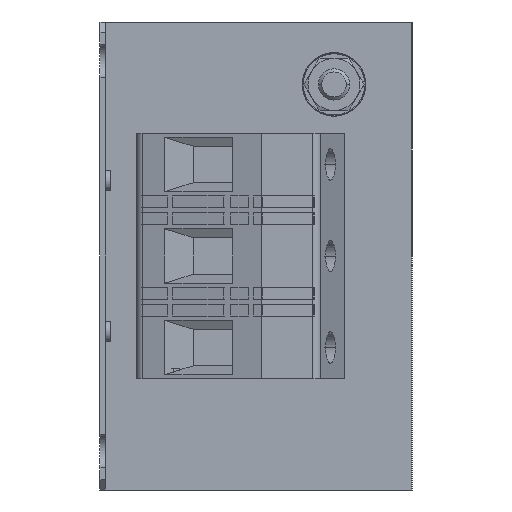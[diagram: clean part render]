
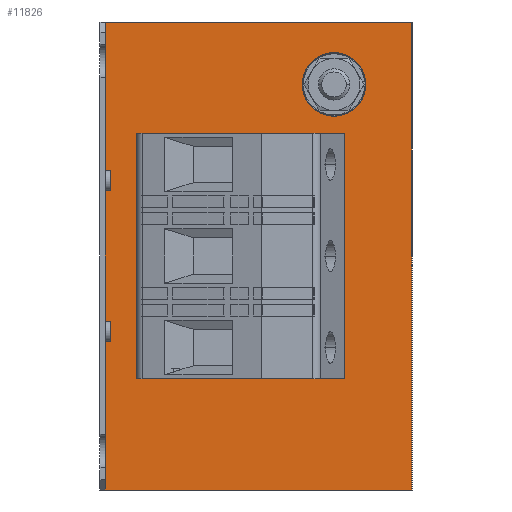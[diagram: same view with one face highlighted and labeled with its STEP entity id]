
A CAD part, left-side view. The second image highlights one B-rep face of the part: STEP entity #11826.
In plain terms, the highlighted planar face has unit normal (-1, 0, 0).
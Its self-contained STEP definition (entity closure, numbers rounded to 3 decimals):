
#641=DIRECTION('',(0.,0.,1.));
#642=VECTOR('',#641,47.3);
#643=CARTESIAN_POINT('',(-115.,52.,-23.65));
#644=LINE('',#643,#642);
#648=DIRECTION('',(0.,0.,-1.));
#649=VECTOR('',#648,90.);
#650=CARTESIAN_POINT('',(-115.,-1.,45.));
#651=LINE('',#650,#649);
#655=DIRECTION('',(0.,0.,1.));
#656=VECTOR('',#655,28.564);
#657=CARTESIAN_POINT('',(-115.,58.,-45.));
#658=LINE('',#657,#656);
#662=DIRECTION('',(0.,0.,1.));
#663=VECTOR('',#662,25.127);
#664=CARTESIAN_POINT('',(-115.,58.,-12.564));
#665=LINE('',#664,#663);
#669=DIRECTION('',(0.,0.,1.));
#670=VECTOR('',#669,28.564);
#671=CARTESIAN_POINT('',(-115.,58.,16.436));
#672=LINE('',#671,#670);
#676=DIRECTION('',(0.,-1.,0.));
#677=VECTOR('',#676,40.);
#678=CARTESIAN_POINT('',(-115.,52.,23.65));
#679=LINE('',#678,#677);
#683=DIRECTION('',(0.,-1.,0.));
#684=VECTOR('',#683,40.);
#685=CARTESIAN_POINT('',(-115.,52.,-23.65));
#686=LINE('',#685,#684);
#738=CARTESIAN_POINT('',(-115.,14.,33.));
#739=DIRECTION('',(1.,0.,0.));
#740=DIRECTION('',(0.,-1.,0.));
#741=AXIS2_PLACEMENT_3D('',#738,#739,#740);
#1094=CARTESIAN_POINT('',(-115.,14.,33.));
#1095=DIRECTION('',(1.,0.,0.));
#1096=DIRECTION('',(0.,1.,0.));
#1097=AXIS2_PLACEMENT_3D('',#1094,#1095,#1096);
#3032=DIRECTION('',(0.,1.,0.));
#3033=VECTOR('',#3032,59.);
#3034=CARTESIAN_POINT('',(-115.,-1.,45.));
#3035=LINE('',#3034,#3033);
#3404=DIRECTION('',(0.,-1.,0.));
#3405=VECTOR('',#3404,59.);
#3406=CARTESIAN_POINT('',(-115.,58.,-45.));
#3407=LINE('',#3406,#3405);
#8135=DIRECTION('',(0.,-1.,0.));
#8136=VECTOR('',#8135,1.);
#8137=CARTESIAN_POINT('',(-115.,58.,16.436));
#8138=LINE('',#8137,#8136);
#8150=DIRECTION('',(0.,-1.,0.));
#8151=VECTOR('',#8150,1.);
#8152=CARTESIAN_POINT('',(-115.,58.,12.564));
#8153=LINE('',#8152,#8151);
#8157=DIRECTION('',(0.,0.,-1.));
#8158=VECTOR('',#8157,3.873);
#8159=CARTESIAN_POINT('',(-115.,57.,16.436));
#8160=LINE('',#8159,#8158);
#8172=DIRECTION('',(0.,1.,0.));
#8173=VECTOR('',#8172,1.);
#8174=CARTESIAN_POINT('',(-115.,57.,-16.436));
#8175=LINE('',#8174,#8173);
#8187=DIRECTION('',(0.,1.,0.));
#8188=VECTOR('',#8187,1.);
#8189=CARTESIAN_POINT('',(-115.,57.,-12.564));
#8190=LINE('',#8189,#8188);
#8194=DIRECTION('',(0.,0.,1.));
#8195=VECTOR('',#8194,3.873);
#8196=CARTESIAN_POINT('',(-115.,57.,-16.436));
#8197=LINE('',#8196,#8195);
#8294=DIRECTION('',(0.,0.,-1.));
#8295=VECTOR('',#8294,47.3);
#8296=CARTESIAN_POINT('',(-115.,12.,23.65));
#8297=LINE('',#8296,#8295);
#9794=CARTESIAN_POINT('',(-115.,58.,-45.));
#9795=VERTEX_POINT('',#9794);
#9800=CARTESIAN_POINT('',(-115.,58.,45.));
#9801=VERTEX_POINT('',#9800);
#10342=CARTESIAN_POINT('',(-115.,52.,-23.65));
#10343=CARTESIAN_POINT('',(-115.,12.,-23.65));
#10344=VERTEX_POINT('',#10342);
#10345=VERTEX_POINT('',#10343);
#10590=CARTESIAN_POINT('',(-115.,52.,23.65));
#10591=CARTESIAN_POINT('',(-115.,12.,23.65));
#10592=VERTEX_POINT('',#10590);
#10593=VERTEX_POINT('',#10591);
#11122=CARTESIAN_POINT('',(-115.,-1.,-45.));
#11124=VERTEX_POINT('',#11122);
#11126=CARTESIAN_POINT('',(-115.,-1.,45.));
#11128=VERTEX_POINT('',#11126);
#11138=CARTESIAN_POINT('',(-115.,57.,-16.436));
#11139=CARTESIAN_POINT('',(-115.,57.,-12.564));
#11140=VERTEX_POINT('',#11138);
#11141=VERTEX_POINT('',#11139);
#11142=CARTESIAN_POINT('',(-115.,58.,-12.564));
#11143=VERTEX_POINT('',#11142);
#11144=CARTESIAN_POINT('',(-115.,58.,-16.436));
#11145=VERTEX_POINT('',#11144);
#11154=CARTESIAN_POINT('',(-115.,57.,16.436));
#11155=CARTESIAN_POINT('',(-115.,57.,12.564));
#11156=VERTEX_POINT('',#11154);
#11157=VERTEX_POINT('',#11155);
#11158=CARTESIAN_POINT('',(-115.,58.,12.564));
#11159=VERTEX_POINT('',#11158);
#11160=CARTESIAN_POINT('',(-115.,58.,16.436));
#11161=VERTEX_POINT('',#11160);
#11162=CARTESIAN_POINT('',(-115.,11.,33.));
#11163=CARTESIAN_POINT('',(-115.,17.,33.));
#11164=VERTEX_POINT('',#11162);
#11165=VERTEX_POINT('',#11163);
#11780=CARTESIAN_POINT('',(-115.,29.5,44.5));
#11781=DIRECTION('',(1.,0.,0.));
#11782=DIRECTION('',(0.,1.,0.));
#11783=AXIS2_PLACEMENT_3D('',#11780,#11781,#11782);
#11784=PLANE('',#11783);
#11786=ORIENTED_EDGE('',*,*,#11785,.T.);
#11788=ORIENTED_EDGE('',*,*,#11787,.F.);
#11790=ORIENTED_EDGE('',*,*,#11789,.T.);
#11792=ORIENTED_EDGE('',*,*,#11791,.F.);
#11794=ORIENTED_EDGE('',*,*,#11793,.T.);
#11796=ORIENTED_EDGE('',*,*,#11795,.T.);
#11798=ORIENTED_EDGE('',*,*,#11797,.T.);
#11800=ORIENTED_EDGE('',*,*,#11799,.T.);
#11802=ORIENTED_EDGE('',*,*,#11801,.F.);
#11804=ORIENTED_EDGE('',*,*,#11803,.F.);
#11806=ORIENTED_EDGE('',*,*,#11805,.T.);
#11808=ORIENTED_EDGE('',*,*,#11807,.F.);
#11809=EDGE_LOOP('',(#11786,#11788,#11790,#11792,#11794,#11796,#11798,#11800,
#11802,#11804,#11806,#11808));
#11810=FACE_OUTER_BOUND('',#11809,.F.);
#11812=ORIENTED_EDGE('',*,*,#11811,.F.);
#11814=ORIENTED_EDGE('',*,*,#11813,.F.);
#11815=EDGE_LOOP('',(#11812,#11814));
#11816=FACE_BOUND('',#11815,.F.);
#11818=ORIENTED_EDGE('',*,*,#11817,.F.);
#11819=ORIENTED_EDGE('',*,*,#11770,.F.);
#11821=ORIENTED_EDGE('',*,*,#11820,.T.);
#11823=ORIENTED_EDGE('',*,*,#11822,.F.);
#11824=EDGE_LOOP('',(#11818,#11819,#11821,#11823));
#11825=FACE_BOUND('',#11824,.F.);
#742=CIRCLE('',#741,3.);
#1098=CIRCLE('',#1097,3.);
#11770=EDGE_CURVE('',#10344,#10592,#644,.T.);
#11785=EDGE_CURVE('',#11128,#11124,#651,.T.);
#11787=EDGE_CURVE('',#9795,#11124,#3407,.T.);
#11789=EDGE_CURVE('',#9795,#11145,#658,.T.);
#11791=EDGE_CURVE('',#11140,#11145,#8175,.T.);
#11793=EDGE_CURVE('',#11140,#11141,#8197,.T.);
#11795=EDGE_CURVE('',#11141,#11143,#8190,.T.);
#11797=EDGE_CURVE('',#11143,#11159,#665,.T.);
#11799=EDGE_CURVE('',#11159,#11157,#8153,.T.);
#11801=EDGE_CURVE('',#11156,#11157,#8160,.T.);
#11803=EDGE_CURVE('',#11161,#11156,#8138,.T.);
#11805=EDGE_CURVE('',#11161,#9801,#672,.T.);
#11807=EDGE_CURVE('',#11128,#9801,#3035,.T.);
#11811=EDGE_CURVE('',#11164,#11165,#742,.T.);
#11813=EDGE_CURVE('',#11165,#11164,#1098,.T.);
#11817=EDGE_CURVE('',#10592,#10593,#679,.T.);
#11820=EDGE_CURVE('',#10344,#10345,#686,.T.);
#11822=EDGE_CURVE('',#10593,#10345,#8297,.T.);
#11826=ADVANCED_FACE('',(#11810,#11816,#11825),#11784,.F.);
